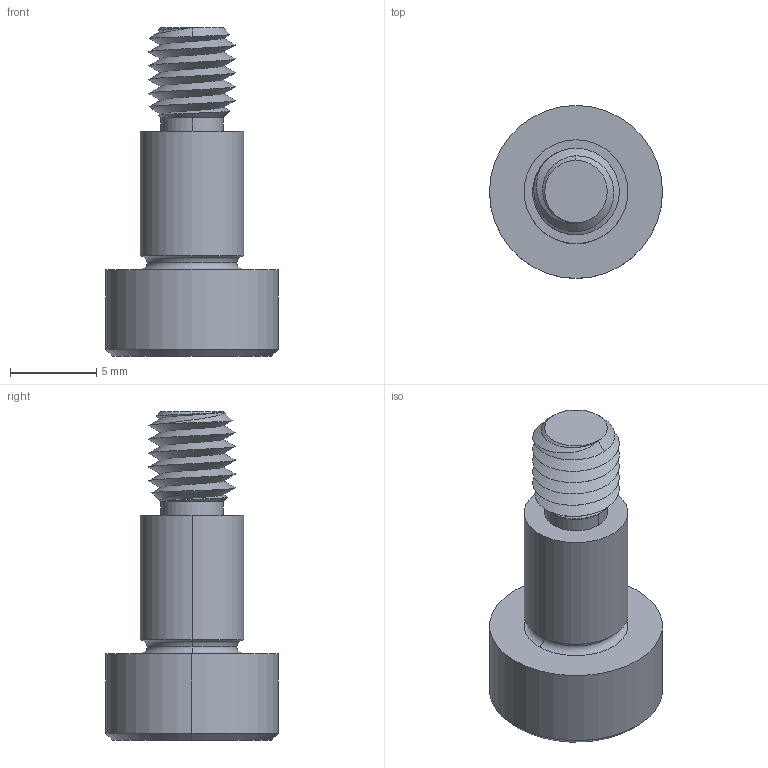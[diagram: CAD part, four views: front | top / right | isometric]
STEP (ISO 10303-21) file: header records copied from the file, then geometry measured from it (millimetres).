
FILE_DESCRIPTION (( 'STEP AP203' ), '1' );
FILE_NAME ('P0130.060-008-B2.step', '2021-11-09T21:22:46', ( '' ), ( '' ), 'SwSTEP 2.0', 'SolidWorks 2019', '' );
FILE_SCHEMA (( 'CONFIG_CONTROL_DESIGN' ));
Length unit declared in the file: millimetre
Products named in the file (1): P0130.060-008-B2
Bounding box: 10 x 10 x 19 mm (x, y, z)
Volume: 669.5 mm3; surface area: 638.3 mm2
Topology: 1 solids, 1 shells, 53 faces, 121 edges, 71 vertices
Faces by surface type: cylinder 17, plane 16, cone 14, torus 4, bspline 2
Entity records: 2367 total; most frequent: CARTESIAN_POINT 1186, ORIENTED_EDGE 238, DIRECTION 226, EDGE_CURVE 119, AXIS2_PLACEMENT_3D 92, VERTEX_POINT 71, EDGE_LOOP 56, FACE_OUTER_BOUND 53
